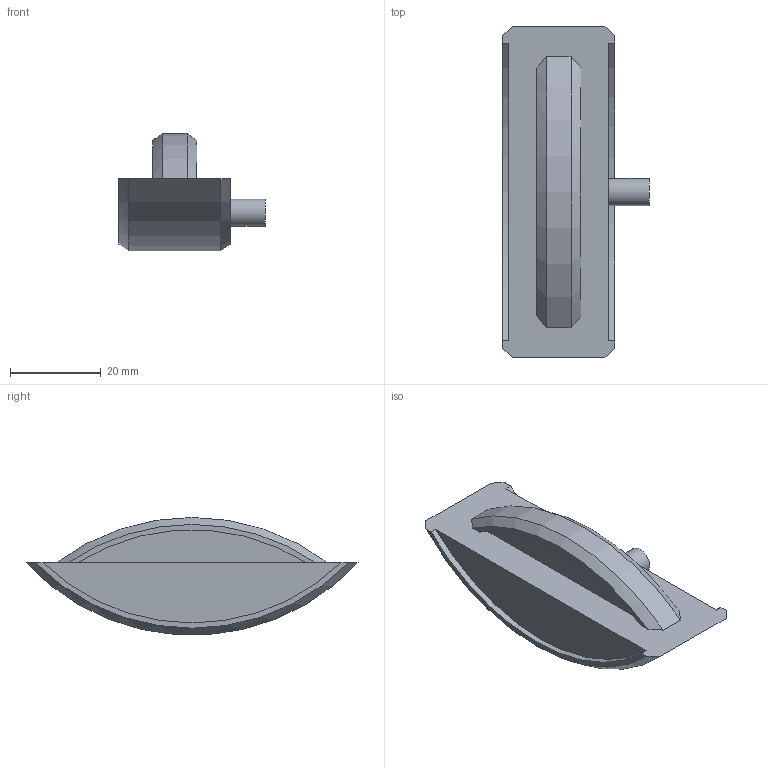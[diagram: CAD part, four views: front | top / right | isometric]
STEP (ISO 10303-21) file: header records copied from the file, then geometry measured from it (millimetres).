
FILE_DESCRIPTION(/* description */ (''),/* implementation_level */ '2;1');
FILE_NAME(/* name */ 'LC P-16x22 mit 6mm Bohrung_P-10.stp',/* time_stamp */ '2024-12-19T16:38:07+01:00',/* author */ ('simond'),/* organization */ (''),/* preprocessor_version */ 'ST-DEVELOPER v19.2',/* originating_system */ 'Autodesk Inventor 2023',/* authorisation */ '');
FILE_SCHEMA (('AUTOMOTIVE_DESIGN { 1 0 10303 214 3 1 1 }'));
Length unit declared in the file: millimetre
Products named in the file (3): LC P-16x22 mit 6mm Bohrung_P-10; P-14 Profilnut; P-10 Profilnut ohne Zugangsbohrung
Assembly tree (2 placements, depth 2):
  LC P-16x22 mit 6mm Bohrung_P-10
    P-14 Profilnut
    P-10 Profilnut ohne Zugangsbohrung
Bounding box: 32.4 x 73.32 x 25.86 mm (x, y, z)
Volume: 21507.8 mm3; surface area: 7371.3 mm2
Topology: 2 solids, 2 shells, 22 faces, 51 edges, 34 vertices
Faces by surface type: plane 11, cylinder 7, cone 4
Full cylindrical faces by diameter (mm): 6 x1
Entity records: 741 total; most frequent: CARTESIAN_POINT 128, DIRECTION 115, ORIENTED_EDGE 102, EDGE_CURVE 51, AXIS2_PLACEMENT_3D 45, VERTEX_POINT 34, LINE 25, VECTOR 25
